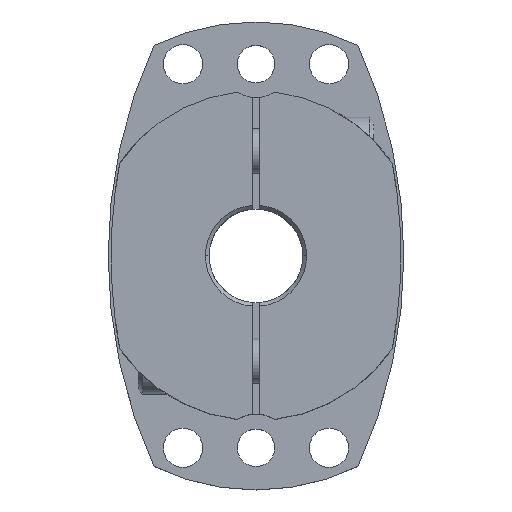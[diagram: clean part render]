
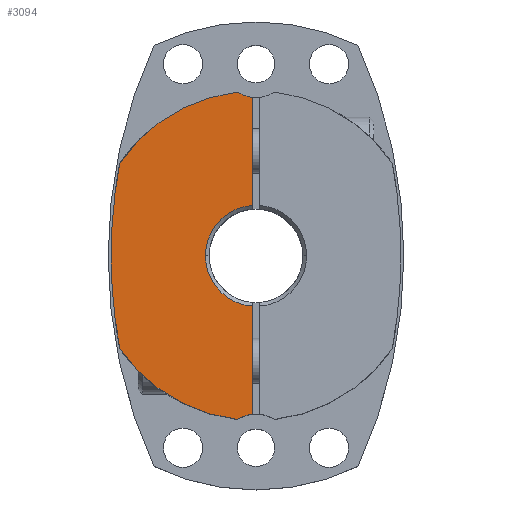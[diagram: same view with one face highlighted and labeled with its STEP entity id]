
A CAD part, top view. The second image highlights one B-rep face of the part: STEP entity #3094.
In plain terms, the highlighted planar face has unit normal (0, 0, 1).
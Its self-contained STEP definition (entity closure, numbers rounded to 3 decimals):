
#412=CARTESIAN_POINT('',(-13.5,0.,36.0));
#413=VERTEX_POINT('',#412);
#421=CARTESIAN_POINT('',(-1.,13.463,36.0));
#422=VERTEX_POINT('',#421);
#436=CARTESIAN_POINT('',(0.,0.,36.0));
#437=DIRECTION('',(0.0,0.0,1.0));
#438=DIRECTION('',(-1.0,0.0,0.0));
#439=AXIS2_PLACEMENT_3D('',#436,#437,#438);
#440=CIRCLE('',#439,13.5);
#441=EDGE_CURVE('',#422,#413,#440,.T.);
#451=CARTESIAN_POINT('',(-38.7,0.,36.0));
#452=VERTEX_POINT('',#451);
#461=CARTESIAN_POINT('',(-36.405,24.712,36.0));
#462=VERTEX_POINT('',#461);
#463=CARTESIAN_POINT('',(95.5,0.,36.0));
#464=DIRECTION('',(0.0,0.0,-1.0));
#465=DIRECTION('',(1.0,0.0,0.0));
#466=AXIS2_PLACEMENT_3D('',#463,#464,#465);
#467=CIRCLE('',#466,134.2);
#468=EDGE_CURVE('',#452,#462,#467,.T.);
#2005=CARTESIAN_POINT('',(-4.933,-43.723,36.0));
#2006=VERTEX_POINT('',#2005);
#2013=CARTESIAN_POINT('',(-36.405,-24.712,36.0));
#2014=VERTEX_POINT('',#2013);
#2015=CARTESIAN_POINT('',(0.,0.,36.0));
#2016=DIRECTION('',(0.0,0.0,-1.0));
#2017=DIRECTION('',(1.0,0.0,0.0));
#2018=AXIS2_PLACEMENT_3D('',#2015,#2016,#2017);
#2019=CIRCLE('',#2018,44.);
#2020=EDGE_CURVE('',#2006,#2014,#2019,.T.);
#2654=CARTESIAN_POINT('',(95.5,0.,36.0));
#2655=DIRECTION('',(0.0,0.0,-1.0));
#2656=DIRECTION('',(1.0,0.0,0.0));
#2657=AXIS2_PLACEMENT_3D('',#2654,#2655,#2656);
#2658=CIRCLE('',#2657,134.2);
#2659=EDGE_CURVE('',#2014,#452,#2658,.T.);
#2704=CARTESIAN_POINT('',(-1.,42.306,36.0));
#2705=VERTEX_POINT('',#2704);
#2721=CARTESIAN_POINT('',(-4.933,43.723,36.0));
#2722=VERTEX_POINT('',#2721);
#2729=CARTESIAN_POINT('',(0.,51.25,36.0));
#2730=DIRECTION('',(0.0,0.0,-1.0));
#2731=DIRECTION('',(1.0,0.0,0.0));
#2732=AXIS2_PLACEMENT_3D('',#2729,#2730,#2731);
#2733=CIRCLE('',#2732,9.0);
#2734=EDGE_CURVE('',#2705,#2722,#2733,.T.);
#2796=CARTESIAN_POINT('',(-1.,-42.306,36.0));
#2797=VERTEX_POINT('',#2796);
#2804=CARTESIAN_POINT('',(0.,-51.25,36.0));
#2805=DIRECTION('',(0.0,0.0,-1.0));
#2806=DIRECTION('',(1.0,0.0,0.0));
#2807=AXIS2_PLACEMENT_3D('',#2804,#2805,#2806);
#2808=CIRCLE('',#2807,9.0);
#2809=EDGE_CURVE('',#2006,#2797,#2808,.T.);
#2928=CARTESIAN_POINT('',(-1.,13.463,36.0));
#2929=DIRECTION('',(0.0,1.0,0.0));
#2930=VECTOR('',#2929,28.843);
#2931=LINE('',#2928,#2930);
#2932=EDGE_CURVE('',#422,#2705,#2931,.T.);
#3058=CARTESIAN_POINT('',(0.,0.,36.0));
#3059=DIRECTION('',(0.0,0.0,1.0));
#3060=DIRECTION('',(1.0,0.0,0.0));
#3061=AXIS2_PLACEMENT_3D('',#3058,#3059,#3060);
#3062=PLANE('',#3061);
#3063=ORIENTED_EDGE('',*,*,#2734,.T.);
#3064=CARTESIAN_POINT('',(0.,0.,36.0));
#3065=DIRECTION('',(0.0,0.0,-1.0));
#3066=DIRECTION('',(1.0,0.0,0.0));
#3067=AXIS2_PLACEMENT_3D('',#3064,#3065,#3066);
#3068=CIRCLE('',#3067,44.);
#3069=EDGE_CURVE('',#462,#2722,#3068,.T.);
#3070=ORIENTED_EDGE('',*,*,#3069,.F.);
#3071=ORIENTED_EDGE('',*,*,#468,.F.);
#3072=ORIENTED_EDGE('',*,*,#2659,.F.);
#3073=ORIENTED_EDGE('',*,*,#2020,.F.);
#3074=ORIENTED_EDGE('',*,*,#2809,.T.);
#3075=CARTESIAN_POINT('',(-1.,-13.463,36.0));
#3076=VERTEX_POINT('',#3075);
#3077=CARTESIAN_POINT('',(-1.,-42.306,36.0));
#3078=DIRECTION('',(0.0,1.0,0.0));
#3079=VECTOR('',#3078,28.843);
#3080=LINE('',#3077,#3079);
#3081=EDGE_CURVE('',#2797,#3076,#3080,.T.);
#3082=ORIENTED_EDGE('',*,*,#3081,.T.);
#3083=CARTESIAN_POINT('',(0.,0.,36.0));
#3084=DIRECTION('',(0.0,0.0,1.0));
#3085=DIRECTION('',(-1.0,0.0,0.0));
#3086=AXIS2_PLACEMENT_3D('',#3083,#3084,#3085);
#3087=CIRCLE('',#3086,13.5);
#3088=EDGE_CURVE('',#413,#3076,#3087,.T.);
#3089=ORIENTED_EDGE('',*,*,#3088,.F.);
#3090=ORIENTED_EDGE('',*,*,#441,.F.);
#3091=ORIENTED_EDGE('',*,*,#2932,.T.);
#3092=EDGE_LOOP('',(#3063,#3070,#3071,#3072,#3073,#3074,#3082,#3089,#3090,#3091));
#3093=FACE_OUTER_BOUND('',#3092,.T.);
#3094=ADVANCED_FACE('',(#3093),#3062,.T.);
